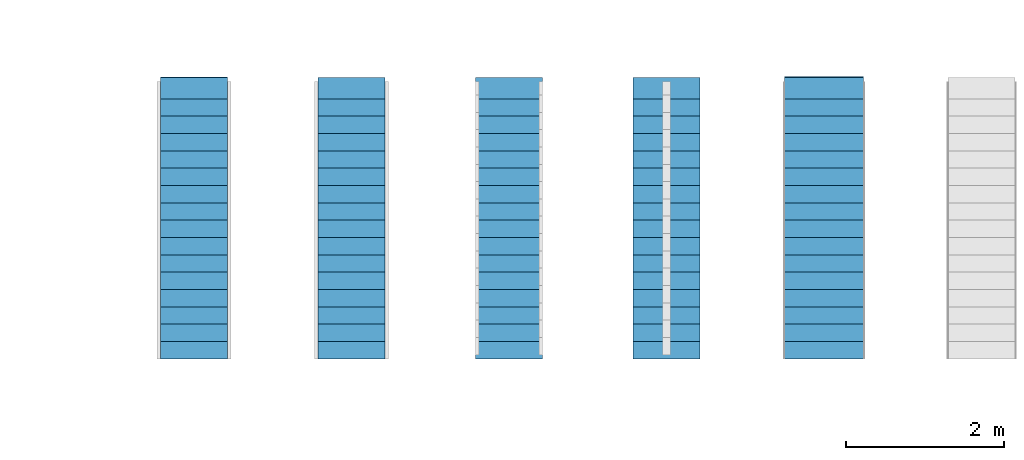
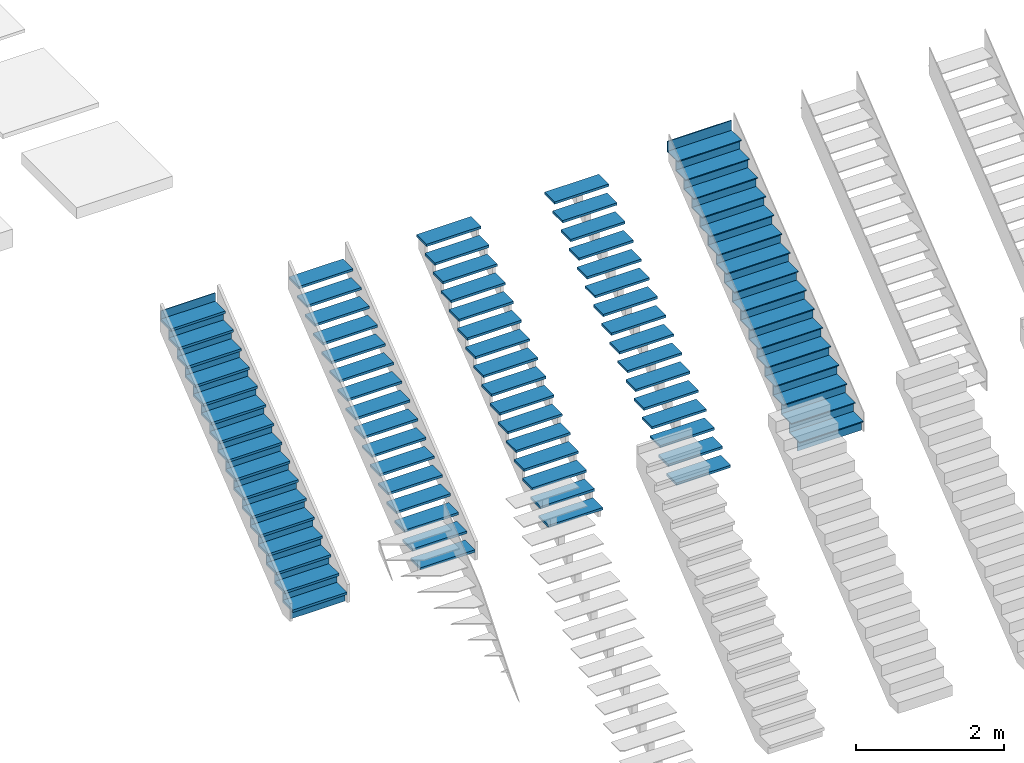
# One storey, part 6 of 14: 5 stair flights, 5 elements without a shape of their own.
"""IFC2X3 building model written with IfcOpenShell, lengths in millimetres."""

import ifcopenshell
import ifcopenshell.guid

model = None  # the IFC model being written
_history = None  # IfcOwnerHistory: only IFC2X3 demands one
_inside = {}  # id of a spatial element -> (the spatial element, [elements in it])
_under = {}  # id of a project, library or spatial element -> (it, [spatial elements below it])
_declared = {}  # id of a project -> (the project, [libraries it declares])
_typed = {}  # id of a type object -> (the type object, [elements of that type])
_made_of = {}  # id of a material, layer set ... -> (it, [elements and type objects made of it])


def new_model(schema):
    """Start an empty IFC model of exactly this schema.

    Asked for "IFC4X3", IfcOpenShell would pick the latest addendum, in which some entities
    have other attributes; the version numbers below select the first issue.
    IFC2X3 requires an IfcOwnerHistory on every rooted entity: one is made here for all.
    """
    global model, _history
    if schema == "IFC4X3":
        model = ifcopenshell.file(schema_version=(4, 3, 0, 0))
    else:
        model = ifcopenshell.file(schema=schema)
    _inside.clear()
    _under.clear()
    _declared.clear()
    _typed.clear()
    _made_of.clear()
    _history = None
    if model.schema == "IFC2X3":
        org = make("IfcOrganization", Name="unknown")
        user = make(
            "IfcPersonAndOrganization",
            ThePerson=make("IfcPerson", FamilyName="unknown"),
            TheOrganization=org,
        )
        app = make(
            "IfcApplication",
            ApplicationDeveloper=org,
            Version="unknown",
            ApplicationFullName="unknown",
            ApplicationIdentifier="unknown",
        )
        _history = make(
            "IfcOwnerHistory",
            OwningUser=user,
            OwningApplication=app,
            ChangeAction="ADDED",
            CreationDate=0,
        )
    return model


def make(cls, **values):
    """One entity of the class cls with the attributes given. An attribute that is None is left unset."""
    return model.create_entity(
        cls, **{name: value for name, value in values.items() if value is not None}
    )


def entity(cls, *values):
    """Any entity or typed value of the class cls, its attributes in the order of the schema. None: left unset."""
    e = model.create_entity(cls)
    for i, value in enumerate(values):
        if value is not None:
            e[i] = value
    return e


def rooted(cls, **values):
    """An entity with a GlobalId (a new one), such as an element, a storey or a relation."""
    return make(cls, GlobalId=ifcopenshell.guid.new(), OwnerHistory=_history, **values)


def si_unit(unit_type, name, prefix=None):
    """IfcSIUnit, for example si_unit("LENGTHUNIT", "METRE", prefix="MILLI")."""
    return make("IfcSIUnit", UnitType=unit_type, Prefix=prefix, Name=name)


def converted_unit(unit_type, name, factor, base, dimensions=None, offset=None):
    """IfcConversionBasedUnit, such as the inch: factor (a typed value) times the base unit."""
    return make(
        "IfcConversionBasedUnit"
        if offset is None
        else "IfcConversionBasedUnitWithOffset",
        ConversionOffset=offset,
        Dimensions=None
        if dimensions is None
        else entity("IfcDimensionalExponents", *dimensions),
        UnitType=unit_type,
        Name=name,
        ConversionFactor=make(
            "IfcMeasureWithUnit", ValueComponent=factor, UnitComponent=base
        ),
    )


def derived_unit(unit_type, elements):
    """IfcDerivedUnit: a product of units, each with its exponent."""
    return make(
        "IfcDerivedUnit",
        Elements=[
            make("IfcDerivedUnitElement", Unit=unit, Exponent=power)
            for unit, power in elements
        ],
        UnitType=unit_type,
    )


def assignment(units):
    """IfcUnitAssignment: the units of a project."""
    return None if units is None else make("IfcUnitAssignment", Units=units)


def point(xyz):
    """IfcCartesianPoint."""
    return None if xyz is None else make("IfcCartesianPoint", Coordinates=xyz)


def direction(xyz):
    """IfcDirection."""
    return None if xyz is None else make("IfcDirection", DirectionRatios=xyz)


def frame(location, z_axis=None, x_axis=None):
    """IfcAxis2Placement3D, a coordinate frame: its origin and axes. An axis left out is left unset."""
    return make(
        "IfcAxis2Placement3D",
        Location=point(location),
        Axis=direction(z_axis),
        RefDirection=direction(x_axis),
    )


def frame_2d(location, x_axis=None):
    """IfcAxis2Placement2D, a coordinate frame in the plane: its origin and x axis."""
    return make(
        "IfcAxis2Placement2D", Location=point(location), RefDirection=direction(x_axis)
    )


def origin():
    """The frame at (0, 0, 0) with its axes left unset."""
    return frame((0.0, 0.0, 0.0))


def origin_2d_with_axis():
    """The frame at (0, 0) in the plane with the x axis (1, 0) written out."""
    return frame_2d((0.0, 0.0), x_axis=(1.0, 0.0))


def place(relative_to, where):
    """IfcLocalPlacement: puts the frame where relative to a parent placement (None: the world)."""
    return make(
        "IfcLocalPlacement", PlacementRelTo=relative_to, RelativePlacement=where
    )


def context(
    kind, dimensions, precision=None, world=None, true_north=None, identifier=None
):
    """IfcGeometricRepresentationContext, for example the 3D "Model" context."""
    return make(
        "IfcGeometricRepresentationContext",
        ContextIdentifier=identifier,
        ContextType=kind,
        CoordinateSpaceDimension=dimensions,
        Precision=precision,
        WorldCoordinateSystem=world,
        TrueNorth=true_north,
    )


def subcontext(parent, identifier, kind, view, scale=None):
    """IfcGeometricRepresentationSubContext, for example "Body" below "Model"."""
    return make(
        "IfcGeometricRepresentationSubContext",
        ContextIdentifier=identifier,
        ContextType=kind,
        ParentContext=parent,
        TargetScale=scale,
        TargetView=view,
    )


def project(units=None, contexts=None):
    """IfcProject with its units and contexts."""
    return rooted(
        "IfcProject",
        Name="project",
        RepresentationContexts=contexts,
        UnitsInContext=assignment(units),
    )


def spatial(cls, under=None, at=None, **own):
    """A site, building, storey or space (cls), placed at a placement, below another one or the project."""
    s = rooted(cls, ObjectPlacement=at, **own)
    if under is not None:
        _under.setdefault(under.id(), (under, []))[1].append(s)
    return s


def profile(cls, at=None, kind="AREA", **sizes):
    """A parametric profile (cls). Its sizes go by their IFC names, for example OverallWidth=200.0."""
    return make(cls, ProfileType=kind, Position=at, **sizes)


def rectangle(**sizes):
    """IfcRectangleProfileDef."""
    return profile("IfcRectangleProfileDef", **sizes)


def extrude(swept, where, along, depth):
    """IfcExtrudedAreaSolid: the profile swept, set in the frame where, extruded along a direction by depth."""
    return make(
        "IfcExtrudedAreaSolid",
        SweptArea=swept,
        Position=where,
        ExtrudedDirection=direction(along),
        Depth=depth,
    )


def shape(context_of_items, identifier, shape_type, items):
    """IfcShapeRepresentation: the items that make up one representation, for example the "Body"."""
    return make(
        "IfcShapeRepresentation",
        ContextOfItems=context_of_items,
        RepresentationIdentifier=identifier,
        RepresentationType=shape_type,
        Items=items,
    )


def material(Name=None, Category=None):
    """IfcMaterial."""
    return make("IfcMaterial", Name=Name, Category=Category)


def made_of(thing, what):
    """Note that an element or type object is made of a material, layer set ...; save() writes the relation."""
    if what is not None:
        _made_of.setdefault(what.id(), (what, []))[1].append(thing)
    return thing


def element(
    cls,
    number,
    at=None,
    inside=None,
    cuts=None,
    type_object=None,
    material=None,
    context=None,
    identifier="Body",
    shape_type=None,
    held_by="IfcProductDefinitionShape",
    body=None,
    shapes=None,
    **own,
):
    """One element of the class cls, such as IfcWall. Its Tag is "e" and its number.

    at: its placement. inside: the storey or other place that contains it. cuts: it is an
    opening in that element (IfcRelVoidsElement). A single representation is given by context,
    identifier, shape_type and body (its items); several are given by shapes. held_by: the class
    of the entity that holds the representations. save() writes the other relations.
    """
    e = rooted(cls, Tag="e%d" % number, ObjectPlacement=at, **own)
    if body is not None:
        shapes = [shape(context, identifier, shape_type, body)]
    if shapes is not None:
        e.Representation = make(held_by, Representations=shapes)
    if inside is not None:
        _inside.setdefault(inside.id(), (inside, []))[1].append(e)
    if cuts is not None:
        rooted(
            "IfcRelVoidsElement", RelatingBuildingElement=cuts, RelatedOpeningElement=e
        )
    if type_object is not None:
        _typed.setdefault(type_object.id(), (type_object, []))[1].append(e)
    return made_of(e, material)


def aggregate(whole, parts):
    """IfcRelAggregates: a whole, such as a stair, and the parts it consists of."""
    return rooted("IfcRelAggregates", RelatingObject=whole, RelatedObjects=parts)


def save(model, path):
    """Write the relations noted so far, then the file.

    IfcRelAggregates (storeys below a building ...), IfcRelContainedInSpatialStructure (elements
    in a storey), IfcRelDefinesByType, IfcRelAssociatesMaterial and IfcRelDeclares: one each for
    every whole, place, type object, material and project.
    """
    for whole, parts in _under.values():
        aggregate(whole, parts)
    for where, things in _inside.values():
        rooted(
            "IfcRelContainedInSpatialStructure",
            RelatedElements=things,
            RelatingStructure=where,
        )
    for kind, things in _typed.values():
        rooted("IfcRelDefinesByType", RelatedObjects=things, RelatingType=kind)
    for what, things in _made_of.values():
        rooted("IfcRelAssociatesMaterial", RelatedObjects=things, RelatingMaterial=what)
    for by, libraries in _declared.values():
        rooted("IfcRelDeclares", RelatingContext=by, RelatedDefinitions=libraries)
    model.write(path)


model = new_model("IFC2X3")

# Units and contexts
model_context = context("Model", 3, precision=0.01, world=origin(), true_north=direction((6.12303176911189e-17, 1.0)))
context_of_model = context(None, 3, precision=0.01, world=origin(), true_north=direction((6.12303176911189e-17, 1.0)))
body_context = subcontext(model_context, "Body", "Model", "MODEL_VIEW")
ifc_project = project(units=[si_unit("LENGTHUNIT", "METRE", prefix="MILLI"), si_unit("AREAUNIT", "SQUARE_METRE"), si_unit("VOLUMEUNIT", "CUBIC_METRE"), converted_unit("PLANEANGLEUNIT", "DEGREE", entity("IfcRatioMeasure", 0.0174532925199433), si_unit("PLANEANGLEUNIT", "RADIAN"), dimensions=[0, 0, 0, 0, 0, 0, 0]), si_unit("MASSUNIT", "GRAM", prefix="KILO"), si_unit("TIMEUNIT", "SECOND"), si_unit("FREQUENCYUNIT", "HERTZ"), si_unit("THERMODYNAMICTEMPERATUREUNIT", "KELVIN"), derived_unit("THERMALTRANSMITTANCEUNIT", [(si_unit("MASSUNIT", "GRAM", prefix="KILO"), 1), (si_unit("THERMODYNAMICTEMPERATUREUNIT", "KELVIN"), -1), (si_unit("TIMEUNIT", "SECOND"), -3)]), derived_unit("VOLUMETRICFLOWRATEUNIT", [(si_unit("LENGTHUNIT", "METRE"), 3), (si_unit("TIMEUNIT", "SECOND"), -1)]), si_unit("ELECTRICCURRENTUNIT", "AMPERE"), si_unit("ELECTRICVOLTAGEUNIT", "VOLT"), si_unit("POWERUNIT", "WATT")], contexts=[model_context, context_of_model])

# Site, building, storey
site_placement = place(None, origin())
site = spatial("IfcSite", under=ifc_project, at=site_placement, Name="Surface", CompositionType="ELEMENT")
building_placement = place(site_placement, origin())
building = spatial("IfcBuilding", under=site, at=building_placement, CompositionType="ELEMENT")
storey_placement = place(building_placement, origin())
storey = spatial("IfcBuildingStorey", under=building, at=storey_placement, Name="00_begane grond", CompositionType="ELEMENT", Elevation=0.0)

# Stair, stair flight
stair_1_placement = place(storey_placement, origin())
stair_1 = element("IfcStair", 1, at=stair_1_placement, inside=storey, Name="Assembled Stair:Stair", ShapeType="NOTDEFINED")
ifc_material_1 = material(Name="24_hout_vuren_generiek")
stair_flight_1_placement = place(stair_1_placement, frame((17349.8089026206, -25324.6322235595, 0.0)))
stair_flight_1 = element("IfcStairFlight", 2, at=stair_flight_1_placement, material=ifc_material_1, Name="Assembled Stair:Stair:68679 Run 1", ObjectType="Assembled Stair:24_ST_houten trap_gesloten_b=850_op=185_aan=220", NumberOfRiser=17, NumberOfTreads=16, RiserHeight=0.578971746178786, TreadLength=0.721784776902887, context=body_context, shape_type="SweptSolid", body=[
    extrude(rectangle(XDim=280.000000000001, YDim=850.000000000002, at=frame_2d((-2.1600499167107e-12, 0.0), x_axis=(1.0, 0.0))), frame((425.0, 140.0, 136.470588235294), z_axis=(0.0, 0.0, 1.0), x_axis=(0.0, -1.0, 0.0)), (0.0, 0.0, 1.0), 40.0),
    extrude(rectangle(XDim=850.000000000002, YDim=10.0000000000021, at=frame_2d((0.0, -2.16582307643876e-12), x_axis=(1.0, 0.0))), frame((425.0, 55.0, 0.0), z_axis=(0.0, 0.0, 1.0), x_axis=(-1.0, 0.0, 0.0)), (0.0, 0.0, 1.0), 136.470588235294),
    extrude(rectangle(XDim=279.999999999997, YDim=850.000000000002, at=origin_2d_with_axis()), frame((425.0, 360.0, 312.941176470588), z_axis=(0.0, 0.0, 1.0), x_axis=(0.0, -1.0, 0.0)), (0.0, 0.0, 1.0), 40.0),
    extrude(rectangle(XDim=850.000000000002, YDim=10.0000000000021, at=frame_2d((0.0, -2.16582307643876e-12), x_axis=(1.0, 0.0))), frame((425.0, 275.0, 176.470588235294), z_axis=(0.0, 0.0, 1.0), x_axis=(-1.0, 0.0, 0.0)), (0.0, 0.0, 1.0), 136.470588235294),
    extrude(rectangle(XDim=280.000000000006, YDim=850.000000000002, at=frame_2d((0.0, -1.08002495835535e-12), x_axis=(1.0, 0.0))), frame((425.0, 580.0, 489.411764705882), z_axis=(0.0, 0.0, 1.0), x_axis=(0.0, -1.0, 0.0)), (0.0, 0.0, 1.0), 40.0),
    extrude(rectangle(XDim=850.000000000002, YDim=10.0000000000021, at=frame_2d((0.0, -2.16582307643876e-12), x_axis=(1.0, 0.0))), frame((425.0, 495.0, 352.941176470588), z_axis=(0.0, 0.0, 1.0), x_axis=(-1.0, 0.0, 0.0)), (0.0, 0.0, 1.0), 136.470588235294),
    extrude(rectangle(XDim=279.999999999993, YDim=850.000000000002, at=frame_2d((2.1600499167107e-12, 0.0), x_axis=(1.0, 0.0))), frame((425.0, 800.0, 665.882352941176), z_axis=(0.0, 0.0, 1.0), x_axis=(0.0, -1.0, 0.0)), (0.0, 0.0, 1.0), 40.0),
    extrude(rectangle(XDim=850.000000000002, YDim=10.0000000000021, at=frame_2d((0.0, 2.16582307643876e-12), x_axis=(1.0, 0.0))), frame((425.0, 715.0, 529.411764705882), z_axis=(0.0, 0.0, 1.0), x_axis=(-1.0, 0.0, 0.0)), (0.0, 0.0, 1.0), 136.470588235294),
    extrude(rectangle(XDim=280.000000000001, YDim=850.000000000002, at=frame_2d((-2.1600499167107e-12, 0.0), x_axis=(1.0, 0.0))), frame((425.0, 1020.0, 842.35294117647), z_axis=(0.0, 0.0, 1.0), x_axis=(0.0, -1.0, 0.0)), (0.0, 0.0, 1.0), 40.0),
    extrude(rectangle(XDim=850.000000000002, YDim=10.0000000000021, at=frame_2d((0.0, 2.16582307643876e-12), x_axis=(1.0, 0.0))), frame((425.0, 935.0, 705.882352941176), z_axis=(0.0, 0.0, 1.0), x_axis=(-1.0, 0.0, 0.0)), (0.0, 0.0, 1.0), 136.470588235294),
    extrude(rectangle(XDim=279.999999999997, YDim=850.000000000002, at=origin_2d_with_axis()), frame((425.0, 1240.0, 1018.82352941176), z_axis=(0.0, 0.0, 1.0), x_axis=(0.0, -1.0, 0.0)), (0.0, 0.0, 1.0), 40.0),
    extrude(rectangle(XDim=850.000000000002, YDim=10.0000000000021, at=frame_2d((0.0, 2.16582307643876e-12), x_axis=(1.0, 0.0))), frame((425.0, 1155.0, 882.35294117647), z_axis=(0.0, 0.0, 1.0), x_axis=(-1.0, 0.0, 0.0)), (0.0, 0.0, 1.0), 136.470588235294),
    extrude(rectangle(XDim=280.000000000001, YDim=850.000000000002, at=frame_2d((2.1600499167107e-12, 0.0), x_axis=(1.0, 0.0))), frame((425.0, 1460.0, 1195.29411764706), z_axis=(0.0, 0.0, 1.0), x_axis=(0.0, -1.0, 0.0)), (0.0, 0.0, 1.0), 40.0),
    extrude(rectangle(XDim=850.000000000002, YDim=10.0000000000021, at=frame_2d((0.0, -2.16582307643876e-12), x_axis=(1.0, 0.0))), frame((425.0, 1375.0, 1058.82352941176), z_axis=(0.0, 0.0, 1.0), x_axis=(-1.0, 0.0, 0.0)), (0.0, 0.0, 1.0), 136.470588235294),
    extrude(rectangle(XDim=280.000000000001, YDim=850.000000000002, at=frame_2d((-2.1600499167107e-12, 0.0), x_axis=(1.0, 0.0))), frame((425.0, 1680.0, 1371.76470588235), z_axis=(0.0, 0.0, 1.0), x_axis=(0.0, -1.0, 0.0)), (0.0, 0.0, 1.0), 40.0000000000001),
    extrude(rectangle(XDim=850.000000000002, YDim=10.0000000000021, at=frame_2d((0.0, -2.16582307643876e-12), x_axis=(1.0, 0.0))), frame((425.0, 1595.0, 1235.29411764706), z_axis=(0.0, 0.0, 1.0), x_axis=(-1.0, 0.0, 0.0)), (0.0, 0.0, 1.0), 136.470588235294),
    extrude(rectangle(XDim=279.999999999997, YDim=850.000000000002, at=frame_2d((0.0, 1.08002495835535e-12), x_axis=(1.0, 0.0))), frame((425.0, 1900.0, 1548.23529411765), z_axis=(0.0, 0.0, 1.0), x_axis=(0.0, -1.0, 0.0)), (0.0, 0.0, 1.0), 40.0000000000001),
    extrude(rectangle(XDim=850.000000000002, YDim=10.0000000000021, at=frame_2d((0.0, 2.16582307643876e-12), x_axis=(1.0, 0.0))), frame((425.0, 1815.0, 1411.76470588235), z_axis=(0.0, 0.0, 1.0), x_axis=(-1.0, 0.0, 0.0)), (0.0, 0.0, 1.0), 136.470588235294),
    extrude(rectangle(XDim=279.999999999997, YDim=850.000000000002, at=origin_2d_with_axis()), frame((425.0, 2120.0, 1724.70588235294), z_axis=(0.0, 0.0, 1.0), x_axis=(0.0, -1.0, 0.0)), (0.0, 0.0, 1.0), 40.0000000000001),
    extrude(rectangle(XDim=850.000000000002, YDim=10.0000000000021, at=frame_2d((0.0, -2.16582307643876e-12), x_axis=(1.0, 0.0))), frame((425.0, 2035.0, 1588.23529411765), z_axis=(0.0, 0.0, 1.0), x_axis=(-1.0, 0.0, 0.0)), (0.0, 0.0, 1.0), 136.470588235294),
    extrude(rectangle(XDim=280.000000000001, YDim=850.000000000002, at=frame_2d((2.1600499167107e-12, 0.0), x_axis=(1.0, 0.0))), frame((425.0, 2340.0, 1901.17647058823), z_axis=(0.0, 0.0, 1.0), x_axis=(0.0, -1.0, 0.0)), (0.0, 0.0, 1.0), 40.0000000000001),
    extrude(rectangle(XDim=850.000000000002, YDim=10.0000000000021, at=frame_2d((0.0, -2.16582307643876e-12), x_axis=(1.0, 0.0))), frame((425.0, 2255.0, 1764.70588235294), z_axis=(0.0, 0.0, 1.0), x_axis=(-1.0, 0.0, 0.0)), (0.0, 0.0, 1.0), 136.470588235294),
    extrude(rectangle(XDim=280.000000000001, YDim=850.000000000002, at=frame_2d((2.1600499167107e-12, 0.0), x_axis=(1.0, 0.0))), frame((425.0, 2560.0, 2077.64705882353), z_axis=(0.0, 0.0, 1.0), x_axis=(0.0, -1.0, 0.0)), (0.0, 0.0, 1.0), 40.0000000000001),
    extrude(rectangle(XDim=850.000000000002, YDim=10.0000000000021, at=frame_2d((0.0, -2.16582307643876e-12), x_axis=(1.0, 0.0))), frame((425.0, 2475.0, 1941.17647058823), z_axis=(0.0, 0.0, 1.0), x_axis=(-1.0, 0.0, 0.0)), (0.0, 0.0, 1.0), 136.470588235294),
    extrude(rectangle(XDim=279.999999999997, YDim=850.000000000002, at=origin_2d_with_axis()), frame((425.0, 2780.0, 2254.11764705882), z_axis=(0.0, 0.0, 1.0), x_axis=(0.0, -1.0, 0.0)), (0.0, 0.0, 1.0), 40.0000000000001),
    extrude(rectangle(XDim=850.000000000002, YDim=10.0000000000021, at=frame_2d((0.0, -2.16582307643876e-12), x_axis=(1.0, 0.0))), frame((425.0, 2695.0, 2117.64705882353), z_axis=(0.0, 0.0, 1.0), x_axis=(-1.0, 0.0, 0.0)), (0.0, 0.0, 1.0), 136.470588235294),
    extrude(rectangle(XDim=280.000000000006, YDim=850.000000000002, at=frame_2d((0.0, 1.08002495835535e-12), x_axis=(1.0, 0.0))), frame((425.0, 3000.0, 2430.58823529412), z_axis=(0.0, 0.0, 1.0), x_axis=(0.0, -1.0, 0.0)), (0.0, 0.0, 1.0), 40.0000000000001),
    extrude(rectangle(XDim=850.000000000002, YDim=10.0000000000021, at=frame_2d((0.0, 2.16582307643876e-12), x_axis=(1.0, 0.0))), frame((425.0, 2915.0, 2294.11764705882), z_axis=(0.0, 0.0, 1.0), x_axis=(-1.0, 0.0, 0.0)), (0.0, 0.0, 1.0), 136.470588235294),
    extrude(rectangle(XDim=279.999999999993, YDim=850.000000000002, at=frame_2d((2.1600499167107e-12, -2.1600499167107e-12), x_axis=(1.0, 0.0))), frame((425.0, 3220.0, 2607.05882352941), z_axis=(0.0, 0.0, 1.0), x_axis=(0.0, -1.0, 0.0)), (0.0, 0.0, 1.0), 40.0000000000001),
    extrude(rectangle(XDim=850.000000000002, YDim=10.0000000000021, at=frame_2d((2.18847162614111e-12, 2.16582307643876e-12), x_axis=(1.0, 0.0))), frame((425.0, 3135.0, 2470.58823529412), z_axis=(0.0, 0.0, 1.0), x_axis=(-1.0, 0.0, 0.0)), (0.0, 0.0, 1.0), 136.470588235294),
    extrude(rectangle(XDim=280.000000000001, YDim=850.000000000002, at=frame_2d((2.1600499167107e-12, -2.1600499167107e-12), x_axis=(1.0, 0.0))), frame((425.0, 3440.0, 2783.5294117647), z_axis=(0.0, 0.0, 1.0), x_axis=(0.0, -1.0, 0.0)), (0.0, 0.0, 1.0), 40.0000000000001),
    extrude(rectangle(XDim=850.000000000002, YDim=10.0000000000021, at=frame_2d((2.1600499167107e-12, -2.16582307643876e-12), x_axis=(1.0, 0.0))), frame((425.0, 3355.0, 2647.05882352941), z_axis=(0.0, 0.0, 1.0), x_axis=(-1.0, 0.0, 0.0)), (0.0, 0.0, 1.0), 136.470588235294),
    extrude(rectangle(XDim=850.000000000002, YDim=10.0000000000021, at=frame_2d((2.1600499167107e-12, -2.16582307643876e-12), x_axis=(1.0, 0.0))), frame((425.0, 3575.0, 2823.5294117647), z_axis=(0.0, 0.0, 1.0), x_axis=(-1.0, 0.0, 0.0)), (0.0, 0.0, 1.0), 136.470588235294),
])
aggregate(stair_1, [stair_flight_1])

stair_2_placement = place(storey_placement, origin())
stair_2 = element("IfcStair", 3, at=stair_2_placement, inside=storey, Name="Assembled Stair:Stair", ShapeType="NOTDEFINED")
stair_flight_2_placement = place(stair_2_placement, frame((19349.8089026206, -25324.6322235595, 0.0)))
stair_flight_2 = element("IfcStairFlight", 4, at=stair_flight_2_placement, material=ifc_material_1, Name="Assembled Stair:Stair:68953 Run 1", ObjectType="Assembled Stair:24_ST_houten trap_open_b=850_op=185_aan=220", NumberOfRiser=17, NumberOfTreads=16, RiserHeight=0.578971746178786, TreadLength=0.721784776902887, context=body_context, shape_type="SweptSolid", body=[
    extrude(rectangle(XDim=270.000000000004, YDim=850.0, at=frame_2d((2.1600499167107e-12, -1.08002495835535e-12), x_axis=(1.0, 0.0))), frame((425.0, 135.0, 136.470588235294), z_axis=(0.0, 0.0, 1.0), x_axis=(0.0, -1.0, 0.0)), (0.0, 0.0, 1.0), 40.0),
    extrude(rectangle(XDim=269.999999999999, YDim=850.0, at=frame_2d((0.0, -1.08002495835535e-12), x_axis=(1.0, 0.0))), frame((425.0, 355.0, 312.941176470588), z_axis=(0.0, 0.0, 1.0), x_axis=(0.0, -1.0, 0.0)), (0.0, 0.0, 1.0), 40.0),
    extrude(rectangle(XDim=270.000000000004, YDim=849.999999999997, at=frame_2d((-2.17426077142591e-12, 0.0), x_axis=(1.0, 0.0))), frame((425.0, 575.0, 489.411764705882), z_axis=(0.0, 0.0, 1.0), x_axis=(0.0, -1.0, 0.0)), (0.0, 0.0, 1.0), 40.0),
    extrude(rectangle(XDim=269.999999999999, YDim=849.999999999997, at=origin_2d_with_axis()), frame((425.0, 795.0, 665.882352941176), z_axis=(0.0, 0.0, 1.0), x_axis=(0.0, -1.0, 0.0)), (0.0, 0.0, 1.0), 40.0),
    extrude(rectangle(XDim=270.000000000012, YDim=849.999999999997, at=frame_2d((-6.50857145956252e-12, 0.0), x_axis=(1.0, 0.0))), frame((425.0, 1015.0, 842.35294117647), z_axis=(0.0, 0.0, 1.0), x_axis=(0.0, -1.0, 0.0)), (0.0, 0.0, 1.0), 40.0),
    extrude(rectangle(XDim=269.999999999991, YDim=850.000000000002, at=frame_2d((4.33431068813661e-12, 0.0), x_axis=(1.0, 0.0))), frame((425.0, 1235.0, 1018.82352941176), z_axis=(0.0, 0.0, 1.0), x_axis=(0.0, -1.0, 0.0)), (0.0, 0.0, 1.0), 40.0),
    extrude(rectangle(XDim=270.000000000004, YDim=850.000000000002, at=frame_2d((-2.1600499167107e-12, -2.1600499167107e-12), x_axis=(1.0, 0.0))), frame((425.0, 1455.0, 1195.29411764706), z_axis=(0.0, 0.0, 1.0), x_axis=(0.0, -1.0, 0.0)), (0.0, 0.0, 1.0), 40.0),
    extrude(rectangle(XDim=269.999999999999, YDim=850.000000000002, at=frame_2d((0.0, -2.1600499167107e-12), x_axis=(1.0, 0.0))), frame((425.0, 1675.0, 1371.76470588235), z_axis=(0.0, 0.0, 1.0), x_axis=(0.0, -1.0, 0.0)), (0.0, 0.0, 1.0), 40.0000000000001),
    extrude(rectangle(XDim=270.000000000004, YDim=850.0, at=frame_2d((2.1600499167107e-12, -1.08002495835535e-12), x_axis=(1.0, 0.0))), frame((425.0, 1895.0, 1548.23529411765), z_axis=(0.0, 0.0, 1.0), x_axis=(0.0, -1.0, 0.0)), (0.0, 0.0, 1.0), 40.0000000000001),
    extrude(rectangle(XDim=270.000000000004, YDim=850.0, at=frame_2d((2.1600499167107e-12, -1.08002495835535e-12), x_axis=(1.0, 0.0))), frame((425.0, 2115.0, 1724.70588235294), z_axis=(0.0, 0.0, 1.0), x_axis=(0.0, -1.0, 0.0)), (0.0, 0.0, 1.0), 40.0000000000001),
    extrude(rectangle(XDim=269.999999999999, YDim=850.0, at=frame_2d((0.0, -1.08002495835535e-12), x_axis=(1.0, 0.0))), frame((425.0, 2335.0, 1901.17647058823), z_axis=(0.0, 0.0, 1.0), x_axis=(0.0, -1.0, 0.0)), (0.0, 0.0, 1.0), 40.0000000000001),
    extrude(rectangle(XDim=269.999999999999, YDim=850.0, at=frame_2d((0.0, -1.08002495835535e-12), x_axis=(1.0, 0.0))), frame((425.0, 2555.0, 2077.64705882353), z_axis=(0.0, 0.0, 1.0), x_axis=(0.0, -1.0, 0.0)), (0.0, 0.0, 1.0), 40.0000000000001),
    extrude(rectangle(XDim=270.000000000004, YDim=850.0, at=frame_2d((2.1600499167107e-12, -1.08002495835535e-12), x_axis=(1.0, 0.0))), frame((425.0, 2775.0, 2254.11764705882), z_axis=(0.0, 0.0, 1.0), x_axis=(0.0, -1.0, 0.0)), (0.0, 0.0, 1.0), 40.0000000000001),
    extrude(rectangle(XDim=270.000000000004, YDim=849.999999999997, at=frame_2d((2.17426077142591e-12, 0.0), x_axis=(1.0, 0.0))), frame((425.0, 2995.0, 2430.58823529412), z_axis=(0.0, 0.0, 1.0), x_axis=(0.0, -1.0, 0.0)), (0.0, 0.0, 1.0), 40.0000000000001),
    extrude(rectangle(XDim=269.999999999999, YDim=849.999999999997, at=origin_2d_with_axis()), frame((425.0, 3215.0, 2607.05882352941), z_axis=(0.0, 0.0, 1.0), x_axis=(0.0, -1.0, 0.0)), (0.0, 0.0, 1.0), 40.0000000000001),
    extrude(rectangle(XDim=270.000000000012, YDim=849.999999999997, at=frame_2d((-2.1600499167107e-12, 0.0), x_axis=(1.0, 0.0))), frame((425.0, 3435.0, 2783.5294117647), z_axis=(0.0, 0.0, 1.0), x_axis=(0.0, -1.0, 0.0)), (0.0, 0.0, 1.0), 40.0000000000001),
])
aggregate(stair_2, [stair_flight_2])

stair_3_placement = place(storey_placement, origin())
stair_3 = element("IfcStair", 5, at=stair_3_placement, inside=storey, Name="Assembled Stair:Stair", ShapeType="NOTDEFINED")
stair_flight_3_placement = place(stair_3_placement, frame((21349.8089026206, -25324.6322235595, 0.0)))
stair_flight_3 = element("IfcStairFlight", 6, at=stair_flight_3_placement, material=ifc_material_1, Name="Assembled Stair:Stair:69257 Run 1", ObjectType="Assembled Stair:24_ST_houten trap_open_gezadeld_b=850_op=185_aan=220", NumberOfRiser=17, NumberOfTreads=16, RiserHeight=0.578971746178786, TreadLength=0.721784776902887, context=body_context, shape_type="SweptSolid", body=[
    extrude(rectangle(XDim=270.000000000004, YDim=849.999999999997, at=frame_2d((2.1600499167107e-12, 0.0), x_axis=(1.0, 0.0))), frame((425.0, 135.0, 136.470588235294), z_axis=(0.0, 0.0, 1.0), x_axis=(0.0, -1.0, 0.0)), (0.0, 0.0, 1.0), 40.0),
    extrude(rectangle(XDim=269.999999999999, YDim=849.999999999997, at=origin_2d_with_axis()), frame((425.0, 355.0, 312.941176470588), z_axis=(0.0, 0.0, 1.0), x_axis=(0.0, -1.0, 0.0)), (0.0, 0.0, 1.0), 40.0),
    extrude(rectangle(XDim=270.000000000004, YDim=849.999999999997, at=frame_2d((-2.1600499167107e-12, 0.0), x_axis=(1.0, 0.0))), frame((425.0, 575.0, 489.411764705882), z_axis=(0.0, 0.0, 1.0), x_axis=(0.0, -1.0, 0.0)), (0.0, 0.0, 1.0), 40.0),
    extrude(rectangle(XDim=269.999999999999, YDim=849.999999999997, at=origin_2d_with_axis()), frame((425.0, 795.0, 665.882352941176), z_axis=(0.0, 0.0, 1.0), x_axis=(0.0, -1.0, 0.0)), (0.0, 0.0, 1.0), 40.0),
    extrude(rectangle(XDim=270.000000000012, YDim=849.999999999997, at=frame_2d((-6.49436060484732e-12, 0.0), x_axis=(1.0, 0.0))), frame((425.0, 1015.0, 842.35294117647), z_axis=(0.0, 0.0, 1.0), x_axis=(0.0, -1.0, 0.0)), (0.0, 0.0, 1.0), 40.0),
    extrude(rectangle(XDim=269.999999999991, YDim=849.999999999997, at=frame_2d((4.33431068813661e-12, -2.1600499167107e-12), x_axis=(1.0, 0.0))), frame((425.0, 1235.0, 1018.82352941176), z_axis=(0.0, 0.0, 1.0), x_axis=(0.0, -1.0, 0.0)), (0.0, 0.0, 1.0), 40.0),
    extrude(rectangle(XDim=270.000000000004, YDim=849.999999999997, at=frame_2d((-2.1600499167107e-12, 0.0), x_axis=(1.0, 0.0))), frame((425.0, 1455.0, 1195.29411764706), z_axis=(0.0, 0.0, 1.0), x_axis=(0.0, -1.0, 0.0)), (0.0, 0.0, 1.0), 40.0),
    extrude(rectangle(XDim=269.999999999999, YDim=849.999999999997, at=origin_2d_with_axis()), frame((425.0, 1675.0, 1371.76470588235), z_axis=(0.0, 0.0, 1.0), x_axis=(0.0, -1.0, 0.0)), (0.0, 0.0, 1.0), 40.0000000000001),
    extrude(rectangle(XDim=270.000000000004, YDim=849.999999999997, at=frame_2d((2.1600499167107e-12, 0.0), x_axis=(1.0, 0.0))), frame((425.0, 1895.0, 1548.23529411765), z_axis=(0.0, 0.0, 1.0), x_axis=(0.0, -1.0, 0.0)), (0.0, 0.0, 1.0), 40.0000000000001),
    extrude(rectangle(XDim=270.000000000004, YDim=849.999999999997, at=frame_2d((2.1600499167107e-12, 0.0), x_axis=(1.0, 0.0))), frame((425.0, 2115.0, 1724.70588235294), z_axis=(0.0, 0.0, 1.0), x_axis=(0.0, -1.0, 0.0)), (0.0, 0.0, 1.0), 40.0000000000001),
    extrude(rectangle(XDim=269.999999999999, YDim=849.999999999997, at=origin_2d_with_axis()), frame((425.0, 2335.0, 1901.17647058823), z_axis=(0.0, 0.0, 1.0), x_axis=(0.0, -1.0, 0.0)), (0.0, 0.0, 1.0), 40.0000000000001),
    extrude(rectangle(XDim=269.999999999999, YDim=849.999999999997, at=origin_2d_with_axis()), frame((425.0, 2555.0, 2077.64705882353), z_axis=(0.0, 0.0, 1.0), x_axis=(0.0, -1.0, 0.0)), (0.0, 0.0, 1.0), 40.0000000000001),
    extrude(rectangle(XDim=270.000000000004, YDim=849.999999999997, at=frame_2d((2.1600499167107e-12, 0.0), x_axis=(1.0, 0.0))), frame((425.0, 2775.0, 2254.11764705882), z_axis=(0.0, 0.0, 1.0), x_axis=(0.0, -1.0, 0.0)), (0.0, 0.0, 1.0), 40.0000000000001),
    extrude(rectangle(XDim=270.000000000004, YDim=849.999999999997, at=frame_2d((2.1600499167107e-12, 0.0), x_axis=(1.0, 0.0))), frame((425.0, 2995.0, 2430.58823529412), z_axis=(0.0, 0.0, 1.0), x_axis=(0.0, -1.0, 0.0)), (0.0, 0.0, 1.0), 40.0000000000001),
    extrude(rectangle(XDim=269.999999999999, YDim=849.999999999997, at=origin_2d_with_axis()), frame((425.0, 3215.0, 2607.05882352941), z_axis=(0.0, 0.0, 1.0), x_axis=(0.0, -1.0, 0.0)), (0.0, 0.0, 1.0), 40.0000000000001),
    extrude(rectangle(XDim=270.000000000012, YDim=849.999999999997, at=frame_2d((-6.49436060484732e-12, 0.0), x_axis=(1.0, 0.0))), frame((425.0, 3435.0, 2783.5294117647), z_axis=(0.0, 0.0, 1.0), x_axis=(0.0, -1.0, 0.0)), (0.0, 0.0, 1.0), 40.0000000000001),
])
aggregate(stair_3, [stair_flight_3])

stair_4_placement = place(storey_placement, origin())
stair_4 = element("IfcStair", 7, at=stair_4_placement, inside=storey, Name="Assembled Stair:Stair", ShapeType="NOTDEFINED")
stair_flight_4_placement = place(stair_4_placement, frame((23349.8089026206, -25324.6322235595, 0.0)))
stair_flight_4 = element("IfcStairFlight", 8, at=stair_flight_4_placement, material=ifc_material_1, Name="Assembled Stair:Stair:69261 Run 1", ObjectType="Assembled Stair:24_ST_houten trap_open_middenboom_b=850_op=185_aan=220", NumberOfRiser=17, NumberOfTreads=16, RiserHeight=0.578971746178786, TreadLength=0.721784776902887, context=body_context, shape_type="SweptSolid", body=[
    extrude(rectangle(XDim=270.000000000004, YDim=849.999999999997, at=frame_2d((-2.1600499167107e-12, 0.0), x_axis=(1.0, 0.0))), frame((425.0, 135.0, 136.470588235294), z_axis=(0.0, 0.0, 1.0), x_axis=(0.0, -1.0, 0.0)), (0.0, 0.0, 1.0), 40.0),
    extrude(rectangle(XDim=269.999999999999, YDim=849.999999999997, at=origin_2d_with_axis()), frame((425.0, 355.0, 312.941176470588), z_axis=(0.0, 0.0, 1.0), x_axis=(0.0, -1.0, 0.0)), (0.0, 0.0, 1.0), 40.0),
    extrude(rectangle(XDim=270.000000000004, YDim=849.999999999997, at=frame_2d((2.1600499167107e-12, 0.0), x_axis=(1.0, 0.0))), frame((425.0, 575.0, 489.411764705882), z_axis=(0.0, 0.0, 1.0), x_axis=(0.0, -1.0, 0.0)), (0.0, 0.0, 1.0), 40.0),
    extrude(rectangle(XDim=269.999999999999, YDim=849.999999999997, at=origin_2d_with_axis()), frame((425.0, 795.0, 665.882352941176), z_axis=(0.0, 0.0, 1.0), x_axis=(0.0, -1.0, 0.0)), (0.0, 0.0, 1.0), 40.0),
    extrude(rectangle(XDim=270.000000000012, YDim=849.999999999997, at=frame_2d((-6.49436060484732e-12, 0.0), x_axis=(1.0, 0.0))), frame((425.0, 1015.0, 842.35294117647), z_axis=(0.0, 0.0, 1.0), x_axis=(0.0, -1.0, 0.0)), (0.0, 0.0, 1.0), 40.0),
    extrude(rectangle(XDim=269.999999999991, YDim=849.999999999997, at=frame_2d((4.33431068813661e-12, 2.1600499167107e-12), x_axis=(1.0, 0.0))), frame((425.0, 1235.0, 1018.82352941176), z_axis=(0.0, 0.0, 1.0), x_axis=(0.0, -1.0, 0.0)), (0.0, 0.0, 1.0), 40.0),
    extrude(rectangle(XDim=270.000000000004, YDim=849.999999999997, at=frame_2d((2.1600499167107e-12, 0.0), x_axis=(1.0, 0.0))), frame((425.0, 1455.0, 1195.29411764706), z_axis=(0.0, 0.0, 1.0), x_axis=(0.0, -1.0, 0.0)), (0.0, 0.0, 1.0), 40.0),
    extrude(rectangle(XDim=269.999999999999, YDim=849.999999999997, at=origin_2d_with_axis()), frame((425.0, 1675.0, 1371.76470588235), z_axis=(0.0, 0.0, 1.0), x_axis=(0.0, -1.0, 0.0)), (0.0, 0.0, 1.0), 40.0000000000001),
    extrude(rectangle(XDim=270.000000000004, YDim=849.999999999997, at=frame_2d((-2.1600499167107e-12, 0.0), x_axis=(1.0, 0.0))), frame((425.0, 1895.0, 1548.23529411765), z_axis=(0.0, 0.0, 1.0), x_axis=(0.0, -1.0, 0.0)), (0.0, 0.0, 1.0), 40.0000000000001),
    extrude(rectangle(XDim=269.999999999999, YDim=849.999999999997, at=origin_2d_with_axis()), frame((425.0, 2115.0, 1724.70588235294), z_axis=(0.0, 0.0, 1.0), x_axis=(0.0, -1.0, 0.0)), (0.0, 0.0, 1.0), 40.0000000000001),
    extrude(rectangle(XDim=270.000000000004, YDim=849.999999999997, at=frame_2d((2.1600499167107e-12, 0.0), x_axis=(1.0, 0.0))), frame((425.0, 2335.0, 1901.17647058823), z_axis=(0.0, 0.0, 1.0), x_axis=(0.0, -1.0, 0.0)), (0.0, 0.0, 1.0), 40.0000000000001),
    extrude(rectangle(XDim=270.000000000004, YDim=849.999999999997, at=frame_2d((2.1600499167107e-12, 0.0), x_axis=(1.0, 0.0))), frame((425.0, 2555.0, 2077.64705882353), z_axis=(0.0, 0.0, 1.0), x_axis=(0.0, -1.0, 0.0)), (0.0, 0.0, 1.0), 40.0000000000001),
    extrude(rectangle(XDim=269.999999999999, YDim=849.999999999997, at=origin_2d_with_axis()), frame((425.0, 2775.0, 2254.11764705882), z_axis=(0.0, 0.0, 1.0), x_axis=(0.0, -1.0, 0.0)), (0.0, 0.0, 1.0), 40.0000000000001),
    extrude(rectangle(XDim=270.000000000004, YDim=849.999999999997, at=frame_2d((-2.1600499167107e-12, 0.0), x_axis=(1.0, 0.0))), frame((425.0, 2995.0, 2430.58823529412), z_axis=(0.0, 0.0, 1.0), x_axis=(0.0, -1.0, 0.0)), (0.0, 0.0, 1.0), 40.0000000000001),
    extrude(rectangle(XDim=269.999999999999, YDim=849.999999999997, at=origin_2d_with_axis()), frame((425.0, 3215.0, 2607.05882352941), z_axis=(0.0, 0.0, 1.0), x_axis=(0.0, -1.0, 0.0)), (0.0, 0.0, 1.0), 40.0000000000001),
    extrude(rectangle(XDim=270.000000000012, YDim=849.999999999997, at=frame_2d((-6.49436060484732e-12, 0.0), x_axis=(1.0, 0.0))), frame((425.0, 3435.0, 2783.5294117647), z_axis=(0.0, 0.0, 1.0), x_axis=(0.0, -1.0, 0.0)), (0.0, 0.0, 1.0), 40.0000000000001),
])
aggregate(stair_4, [stair_flight_4])

stair_5_placement = place(storey_placement, origin())
stair_5 = element("IfcStair", 9, at=stair_5_placement, inside=storey, Name="Assembled Stair:Stair", ShapeType="NOTDEFINED")
ifc_material_2 = material(Name="24_staal_gegalvaniseerd_rooster_generiek")
stair_flight_5_placement = place(stair_5_placement, frame((25274.8089026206, -25324.6322235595, 0.0)))
stair_flight_5 = element("IfcStairFlight", 10, at=stair_flight_5_placement, material=ifc_material_2, Name="Assembled Stair:Stair:69280 Run 1", ObjectType="Assembled Stair:24_ST_stalen trap_gesloten_b=1000_op=185_aan=220", NumberOfRiser=17, NumberOfTreads=16, RiserHeight=0.578971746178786, TreadLength=0.721784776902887, context=body_context, shape_type="SweptSolid", body=[
    extrude(rectangle(XDim=285.0, YDim=999.999999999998, at=frame_2d((2.1600499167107e-12, 0.0), x_axis=(1.0, 0.0))), frame((500.0, 142.500000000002, 161.470588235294), z_axis=(0.0, 0.0, 1.0), x_axis=(0.0, -1.0, 0.0)), (0.0, 0.0, 1.0), 15.0),
    extrude(rectangle(XDim=999.999999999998, YDim=15.0000000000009, at=frame_2d((0.0, -2.16582307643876e-12), x_axis=(1.0, 0.0))), frame((500.0, 57.4999999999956, 0.0), z_axis=(0.0, 0.0, 1.0), x_axis=(-1.0, 0.0, 0.0)), (0.0, 0.0, 1.0), 161.470588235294),
    extrude(rectangle(XDim=284.999999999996, YDim=999.999999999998, at=origin_2d_with_axis()), frame((500.0, 362.5, 337.941176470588), z_axis=(0.0, 0.0, 1.0), x_axis=(0.0, -1.0, 0.0)), (0.0, 0.0, 1.0), 15.0),
    extrude(rectangle(XDim=999.999999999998, YDim=15.0000000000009, at=frame_2d((0.0, -2.16582307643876e-12), x_axis=(1.0, 0.0))), frame((500.0, 277.499999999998, 176.470588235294), z_axis=(0.0, 0.0, 1.0), x_axis=(-1.0, 0.0, 0.0)), (0.0, 0.0, 1.0), 161.470588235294),
    extrude(rectangle(XDim=285.0, YDim=999.999999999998, at=frame_2d((-2.1600499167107e-12, 0.0), x_axis=(1.0, 0.0))), frame((500.0, 582.499999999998, 514.411764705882), z_axis=(0.0, 0.0, 1.0), x_axis=(0.0, -1.0, 0.0)), (0.0, 0.0, 1.0), 15.0),
    extrude(rectangle(XDim=999.999999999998, YDim=15.0000000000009, at=frame_2d((0.0, 2.16582307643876e-12), x_axis=(1.0, 0.0))), frame((500.0, 497.5, 352.941176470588), z_axis=(0.0, 0.0, 1.0), x_axis=(-1.0, 0.0, 0.0)), (0.0, 0.0, 1.0), 161.470588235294),
    extrude(rectangle(XDim=284.999999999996, YDim=999.999999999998, at=origin_2d_with_axis()), frame((500.0, 802.499999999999, 690.882352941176), z_axis=(0.0, 0.0, 1.0), x_axis=(0.0, -1.0, 0.0)), (0.0, 0.0, 1.0), 15.0),
    extrude(rectangle(XDim=999.999999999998, YDim=15.0000000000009, at=frame_2d((0.0, 2.16582307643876e-12), x_axis=(1.0, 0.0))), frame((500.0, 717.500000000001, 529.411764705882), z_axis=(0.0, 0.0, 1.0), x_axis=(-1.0, 0.0, 0.0)), (0.0, 0.0, 1.0), 161.470588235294),
    extrude(rectangle(XDim=285.000000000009, YDim=999.999999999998, at=frame_2d((-6.49436060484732e-12, 0.0), x_axis=(1.0, 0.0))), frame((500.0, 1022.5, 867.35294117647), z_axis=(0.0, 0.0, 1.0), x_axis=(0.0, -1.0, 0.0)), (0.0, 0.0, 1.0), 15.0),
    extrude(rectangle(XDim=999.999999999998, YDim=15.0000000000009, at=frame_2d((0.0, -2.16582307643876e-12), x_axis=(1.0, 0.0))), frame((500.0, 937.499999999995, 705.882352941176), z_axis=(0.0, 0.0, 1.0), x_axis=(-1.0, 0.0, 0.0)), (0.0, 0.0, 1.0), 161.470588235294),
    extrude(rectangle(XDim=284.999999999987, YDim=999.999999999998, at=frame_2d((4.32009983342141e-12, -2.18847162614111e-12), x_axis=(1.0, 0.0))), frame((500.0, 1242.5, 1043.82352941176), z_axis=(0.0, 0.0, 1.0), x_axis=(0.0, -1.0, 0.0)), (0.0, 0.0, 1.0), 15.0),
    extrude(rectangle(XDim=999.999999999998, YDim=15.0000000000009, at=origin_2d_with_axis()), frame((500.0, 1157.5, 882.35294117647), z_axis=(0.0, 0.0, 1.0), x_axis=(-1.0, 0.0, 0.0)), (0.0, 0.0, 1.0), 161.470588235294),
    extrude(rectangle(XDim=285.0, YDim=999.999999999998, at=frame_2d((-2.1600499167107e-12, 0.0), x_axis=(1.0, 0.0))), frame((500.0, 1462.5, 1220.29411764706), z_axis=(0.0, 0.0, 1.0), x_axis=(0.0, -1.0, 0.0)), (0.0, 0.0, 1.0), 15.0000000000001),
    extrude(rectangle(XDim=999.999999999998, YDim=15.0000000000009, at=frame_2d((0.0, -2.16582307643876e-12), x_axis=(1.0, 0.0))), frame((500.0, 1377.49999999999, 1058.82352941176), z_axis=(0.0, 0.0, 1.0), x_axis=(-1.0, 0.0, 0.0)), (0.0, 0.0, 1.0), 161.470588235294),
    extrude(rectangle(XDim=284.999999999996, YDim=999.999999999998, at=origin_2d_with_axis()), frame((500.0, 1682.5, 1396.76470588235), z_axis=(0.0, 0.0, 1.0), x_axis=(0.0, -1.0, 0.0)), (0.0, 0.0, 1.0), 15.0000000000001),
    extrude(rectangle(XDim=999.999999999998, YDim=15.0000000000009, at=frame_2d((0.0, -2.16582307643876e-12), x_axis=(1.0, 0.0))), frame((500.0, 1597.5, 1235.29411764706), z_axis=(0.0, 0.0, 1.0), x_axis=(-1.0, 0.0, 0.0)), (0.0, 0.0, 1.0), 161.470588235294),
    extrude(rectangle(XDim=285.0, YDim=999.999999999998, at=frame_2d((2.1600499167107e-12, 0.0), x_axis=(1.0, 0.0))), frame((500.0, 1902.5, 1573.23529411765), z_axis=(0.0, 0.0, 1.0), x_axis=(0.0, -1.0, 0.0)), (0.0, 0.0, 1.0), 15.0000000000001),
    extrude(rectangle(XDim=999.999999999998, YDim=15.0000000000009, at=frame_2d((0.0, -2.16582307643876e-12), x_axis=(1.0, 0.0))), frame((500.0, 1817.49999999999, 1411.76470588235), z_axis=(0.0, 0.0, 1.0), x_axis=(-1.0, 0.0, 0.0)), (0.0, 0.0, 1.0), 161.470588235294),
    extrude(rectangle(XDim=285.0, YDim=999.999999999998, at=frame_2d((2.1600499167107e-12, 0.0), x_axis=(1.0, 0.0))), frame((500.0, 2122.5, 1749.70588235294), z_axis=(0.0, 0.0, 1.0), x_axis=(0.0, -1.0, 0.0)), (0.0, 0.0, 1.0), 15.0000000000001),
    extrude(rectangle(XDim=999.999999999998, YDim=15.0000000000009, at=frame_2d((0.0, -2.16582307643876e-12), x_axis=(1.0, 0.0))), frame((500.0, 2037.5, 1588.23529411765), z_axis=(0.0, 0.0, 1.0), x_axis=(-1.0, 0.0, 0.0)), (0.0, 0.0, 1.0), 161.470588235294),
    extrude(rectangle(XDim=284.999999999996, YDim=999.999999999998, at=origin_2d_with_axis()), frame((500.0, 2342.5, 1926.17647058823), z_axis=(0.0, 0.0, 1.0), x_axis=(0.0, -1.0, 0.0)), (0.0, 0.0, 1.0), 15.0000000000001),
    extrude(rectangle(XDim=999.999999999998, YDim=15.0000000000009, at=frame_2d((0.0, -2.16582307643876e-12), x_axis=(1.0, 0.0))), frame((500.0, 2257.5, 1764.70588235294), z_axis=(0.0, 0.0, 1.0), x_axis=(-1.0, 0.0, 0.0)), (0.0, 0.0, 1.0), 161.470588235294),
    extrude(rectangle(XDim=284.999999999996, YDim=999.999999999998, at=origin_2d_with_axis()), frame((500.0, 2562.5, 2102.64705882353), z_axis=(0.0, 0.0, 1.0), x_axis=(0.0, -1.0, 0.0)), (0.0, 0.0, 1.0), 15.0000000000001),
    extrude(rectangle(XDim=999.999999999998, YDim=15.0000000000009, at=frame_2d((0.0, 2.16582307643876e-12), x_axis=(1.0, 0.0))), frame((500.0, 2477.5, 1941.17647058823), z_axis=(0.0, 0.0, 1.0), x_axis=(-1.0, 0.0, 0.0)), (0.0, 0.0, 1.0), 161.470588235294),
    extrude(rectangle(XDim=285.0, YDim=999.999999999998, at=frame_2d((2.1600499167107e-12, 0.0), x_axis=(1.0, 0.0))), frame((500.0, 2782.5, 2279.11764705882), z_axis=(0.0, 0.0, 1.0), x_axis=(0.0, -1.0, 0.0)), (0.0, 0.0, 1.0), 15.0000000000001),
    extrude(rectangle(XDim=999.999999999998, YDim=15.0000000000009, at=frame_2d((0.0, -2.16582307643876e-12), x_axis=(1.0, 0.0))), frame((500.0, 2697.49999999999, 2117.64705882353), z_axis=(0.0, 0.0, 1.0), x_axis=(-1.0, 0.0, 0.0)), (0.0, 0.0, 1.0), 161.470588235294),
    extrude(rectangle(XDim=285.0, YDim=999.999999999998, at=frame_2d((2.1600499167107e-12, 0.0), x_axis=(1.0, 0.0))), frame((500.0, 3002.5, 2455.58823529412), z_axis=(0.0, 0.0, 1.0), x_axis=(0.0, -1.0, 0.0)), (0.0, 0.0, 1.0), 14.9999999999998),
    extrude(rectangle(XDim=999.999999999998, YDim=15.0000000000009, at=frame_2d((0.0, -2.16582307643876e-12), x_axis=(1.0, 0.0))), frame((500.0, 2917.5, 2294.11764705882), z_axis=(0.0, 0.0, 1.0), x_axis=(-1.0, 0.0, 0.0)), (0.0, 0.0, 1.0), 161.470588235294),
    extrude(rectangle(XDim=284.999999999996, YDim=999.999999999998, at=origin_2d_with_axis()), frame((500.0, 3222.5, 2632.05882352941), z_axis=(0.0, 0.0, 1.0), x_axis=(0.0, -1.0, 0.0)), (0.0, 0.0, 1.0), 14.9999999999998),
    extrude(rectangle(XDim=999.999999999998, YDim=15.0000000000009, at=frame_2d((0.0, -2.16582307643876e-12), x_axis=(1.0, 0.0))), frame((500.0, 3137.5, 2470.58823529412), z_axis=(0.0, 0.0, 1.0), x_axis=(-1.0, 0.0, 0.0)), (0.0, 0.0, 1.0), 161.470588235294),
    extrude(rectangle(XDim=285.000000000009, YDim=999.999999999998, at=frame_2d((-2.17426077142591e-12, 0.0), x_axis=(1.0, 0.0))), frame((500.0, 3442.5, 2808.5294117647), z_axis=(0.0, 0.0, 1.0), x_axis=(0.0, -1.0, 0.0)), (0.0, 0.0, 1.0), 14.9999999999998),
    extrude(rectangle(XDim=999.999999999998, YDim=15.0000000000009, at=frame_2d((0.0, -2.16582307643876e-12), x_axis=(1.0, 0.0))), frame((500.0, 3357.49999999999, 2647.05882352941), z_axis=(0.0, 0.0, 1.0), x_axis=(-1.0, 0.0, 0.0)), (0.0, 0.0, 1.0), 161.470588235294),
    extrude(rectangle(XDim=999.999999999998, YDim=15.0000000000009, at=origin_2d_with_axis()), frame((500.0, 3577.5, 2823.5294117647), z_axis=(0.0, 0.0, 1.0), x_axis=(-1.0, 0.0, 0.0)), (0.0, 0.0, 1.0), 161.470588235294),
])
aggregate(stair_5, [stair_flight_5])

save(model, "model.ifc")
